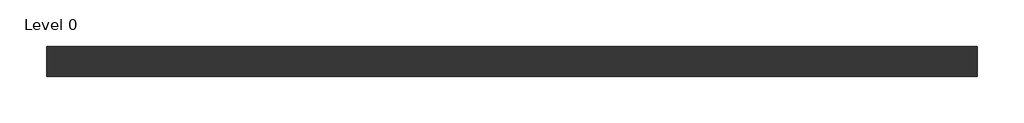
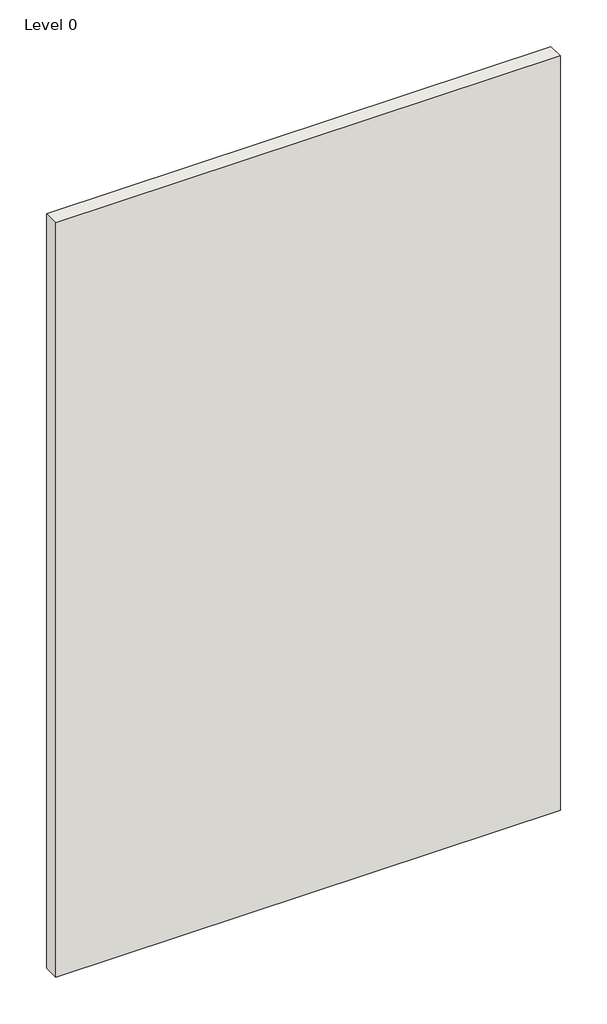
# One storey: 1 wall.
"""IFC4 building model written with IfcOpenShell, lengths in millimetres."""

import ifcopenshell
import ifcopenshell.guid

model = None  # the IFC model being written
_history = None  # IfcOwnerHistory: only IFC2X3 demands one
_inside = {}  # id of a spatial element -> (the spatial element, [elements in it])
_under = {}  # id of a project, library or spatial element -> (it, [spatial elements below it])
_declared = {}  # id of a project -> (the project, [libraries it declares])
_typed = {}  # id of a type object -> (the type object, [elements of that type])
_made_of = {}  # id of a material, layer set ... -> (it, [elements and type objects made of it])


def new_model(schema):
    """Start an empty IFC model of exactly this schema.

    Asked for "IFC4X3", IfcOpenShell would pick the latest addendum, in which some entities
    have other attributes; the version numbers below select the first issue.
    IFC2X3 requires an IfcOwnerHistory on every rooted entity: one is made here for all.
    """
    global model, _history
    if schema == "IFC4X3":
        model = ifcopenshell.file(schema_version=(4, 3, 0, 0))
    else:
        model = ifcopenshell.file(schema=schema)
    _inside.clear()
    _under.clear()
    _declared.clear()
    _typed.clear()
    _made_of.clear()
    _history = None
    if model.schema == "IFC2X3":
        org = make("IfcOrganization", Name="unknown")
        user = make(
            "IfcPersonAndOrganization",
            ThePerson=make("IfcPerson", FamilyName="unknown"),
            TheOrganization=org,
        )
        app = make(
            "IfcApplication",
            ApplicationDeveloper=org,
            Version="unknown",
            ApplicationFullName="unknown",
            ApplicationIdentifier="unknown",
        )
        _history = make(
            "IfcOwnerHistory",
            OwningUser=user,
            OwningApplication=app,
            ChangeAction="ADDED",
            CreationDate=0,
        )
    return model


def make(cls, **values):
    """One entity of the class cls with the attributes given. An attribute that is None is left unset."""
    return model.create_entity(
        cls, **{name: value for name, value in values.items() if value is not None}
    )


def rooted(cls, **values):
    """An entity with a GlobalId (a new one), such as an element, a storey or a relation."""
    return make(cls, GlobalId=ifcopenshell.guid.new(), OwnerHistory=_history, **values)


def si_unit(unit_type, name, prefix=None):
    """IfcSIUnit, for example si_unit("LENGTHUNIT", "METRE", prefix="MILLI")."""
    return make("IfcSIUnit", UnitType=unit_type, Prefix=prefix, Name=name)


def assignment(units):
    """IfcUnitAssignment: the units of a project."""
    return None if units is None else make("IfcUnitAssignment", Units=units)


def point(xyz):
    """IfcCartesianPoint."""
    return None if xyz is None else make("IfcCartesianPoint", Coordinates=xyz)


def direction(xyz):
    """IfcDirection."""
    return None if xyz is None else make("IfcDirection", DirectionRatios=xyz)


def frame(location, z_axis=None, x_axis=None):
    """IfcAxis2Placement3D, a coordinate frame: its origin and axes. An axis left out is left unset."""
    return make(
        "IfcAxis2Placement3D",
        Location=point(location),
        Axis=direction(z_axis),
        RefDirection=direction(x_axis),
    )


def origin():
    """The frame at (0, 0, 0) with its axes left unset."""
    return frame((0.0, 0.0, 0.0))


def origin_with_axes():
    """The frame at (0, 0, 0) with the z axis (0, 0, 1) and the x axis (1, 0, 0) written out."""
    return frame((0.0, 0.0, 0.0), z_axis=(0.0, 0.0, 1.0), x_axis=(1.0, 0.0, 0.0))


def place(relative_to, where):
    """IfcLocalPlacement: puts the frame where relative to a parent placement (None: the world)."""
    return make(
        "IfcLocalPlacement", PlacementRelTo=relative_to, RelativePlacement=where
    )


def context(
    kind, dimensions, precision=None, world=None, true_north=None, identifier=None
):
    """IfcGeometricRepresentationContext, for example the 3D "Model" context."""
    return make(
        "IfcGeometricRepresentationContext",
        ContextIdentifier=identifier,
        ContextType=kind,
        CoordinateSpaceDimension=dimensions,
        Precision=precision,
        WorldCoordinateSystem=world,
        TrueNorth=true_north,
    )


def project(units=None, contexts=None):
    """IfcProject with its units and contexts."""
    return rooted(
        "IfcProject",
        Name="project",
        RepresentationContexts=contexts,
        UnitsInContext=assignment(units),
    )


def spatial(cls, under=None, at=None, **own):
    """A site, building, storey or space (cls), placed at a placement, below another one or the project."""
    s = rooted(cls, ObjectPlacement=at, **own)
    if under is not None:
        _under.setdefault(under.id(), (under, []))[1].append(s)
    return s


def polyline(points):
    """IfcPolyline through the points."""
    return make("IfcPolyline", Points=[point(p) for p in points])


def outline(outer, holes=None, kind="AREA"):
    """IfcArbitraryClosedProfileDef: a profile drawn as a closed curve; with holes, ...WithVoids."""
    if holes is None:
        return make("IfcArbitraryClosedProfileDef", ProfileType=kind, OuterCurve=outer)
    return make(
        "IfcArbitraryProfileDefWithVoids",
        ProfileType=kind,
        OuterCurve=outer,
        InnerCurves=holes,
    )


def extrude(swept, where, along, depth):
    """IfcExtrudedAreaSolid: the profile swept, set in the frame where, extruded along a direction by depth."""
    return make(
        "IfcExtrudedAreaSolid",
        SweptArea=swept,
        Position=where,
        ExtrudedDirection=direction(along),
        Depth=depth,
    )


def shape(context_of_items, identifier, shape_type, items):
    """IfcShapeRepresentation: the items that make up one representation, for example the "Body"."""
    return make(
        "IfcShapeRepresentation",
        ContextOfItems=context_of_items,
        RepresentationIdentifier=identifier,
        RepresentationType=shape_type,
        Items=items,
    )


def made_of(thing, what):
    """Note that an element or type object is made of a material, layer set ...; save() writes the relation."""
    if what is not None:
        _made_of.setdefault(what.id(), (what, []))[1].append(thing)
    return thing


def element(
    cls,
    number,
    at=None,
    inside=None,
    cuts=None,
    type_object=None,
    material=None,
    context=None,
    identifier="Body",
    shape_type=None,
    held_by="IfcProductDefinitionShape",
    body=None,
    shapes=None,
    **own,
):
    """One element of the class cls, such as IfcWall. Its Tag is "e" and its number.

    at: its placement. inside: the storey or other place that contains it. cuts: it is an
    opening in that element (IfcRelVoidsElement). A single representation is given by context,
    identifier, shape_type and body (its items); several are given by shapes. held_by: the class
    of the entity that holds the representations. save() writes the other relations.
    """
    e = rooted(cls, Tag="e%d" % number, ObjectPlacement=at, **own)
    if body is not None:
        shapes = [shape(context, identifier, shape_type, body)]
    if shapes is not None:
        e.Representation = make(held_by, Representations=shapes)
    if inside is not None:
        _inside.setdefault(inside.id(), (inside, []))[1].append(e)
    if cuts is not None:
        rooted(
            "IfcRelVoidsElement", RelatingBuildingElement=cuts, RelatedOpeningElement=e
        )
    if type_object is not None:
        _typed.setdefault(type_object.id(), (type_object, []))[1].append(e)
    return made_of(e, material)


def aggregate(whole, parts):
    """IfcRelAggregates: a whole, such as a stair, and the parts it consists of."""
    return rooted("IfcRelAggregates", RelatingObject=whole, RelatedObjects=parts)


def save(model, path):
    """Write the relations noted so far, then the file.

    IfcRelAggregates (storeys below a building ...), IfcRelContainedInSpatialStructure (elements
    in a storey), IfcRelDefinesByType, IfcRelAssociatesMaterial and IfcRelDeclares: one each for
    every whole, place, type object, material and project.
    """
    for whole, parts in _under.values():
        aggregate(whole, parts)
    for where, things in _inside.values():
        rooted(
            "IfcRelContainedInSpatialStructure",
            RelatedElements=things,
            RelatingStructure=where,
        )
    for kind, things in _typed.values():
        rooted("IfcRelDefinesByType", RelatedObjects=things, RelatingType=kind)
    for what, things in _made_of.values():
        rooted("IfcRelAssociatesMaterial", RelatedObjects=things, RelatingMaterial=what)
    for by, libraries in _declared.values():
        rooted("IfcRelDeclares", RelatingContext=by, RelatedDefinitions=libraries)
    model.write(path)


model = new_model("IFC4")

# Units and contexts
model_context = context("Model", 3, world=origin())
ifc_project = project(units=[si_unit("LENGTHUNIT", "METRE", prefix="MILLI")], contexts=[model_context])

# Site, building, storey
site = spatial("IfcSite", under=ifc_project)
building = spatial("IfcBuilding", under=site)
storey = spatial("IfcBuildingStorey", under=building, Name="Level 0", Elevation=0.0)

# Wall
placement = place(None, origin())
element("IfcWall", 1, ObjectType="G106003 - GypWall Classic", at=placement, inside=storey, context=model_context, shape_type="SweptSolid", body=[
    extrude(outline(polyline([(1155.997948, 505.2669953), (-1944.002052, 505.2669953), (-1944.002052, 605.2669953), (1155.997948, 605.2669953), (1155.997948, 505.2669953)])), origin_with_axes(), (0.0, 0.0, 1.0), 4900.0),
])

save(model, "model.ifc")
